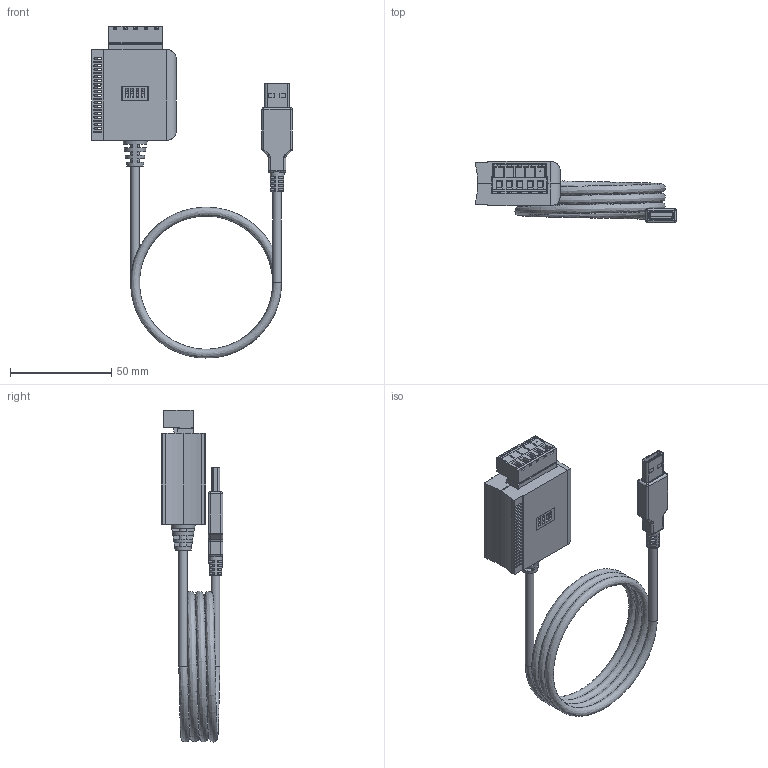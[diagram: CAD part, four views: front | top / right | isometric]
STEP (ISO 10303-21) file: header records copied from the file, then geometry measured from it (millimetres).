
FILE_DESCRIPTION(/* description */ (''),/* implementation_level */ '2;1');
FILE_NAME(/* name */ 'C:/Users/Leo/Desktop/AA CoolGear CADs/New folder/USB-232TTLMOS Model3D LPV1.step',/* time_stamp */ '2021-08-11T14:14:11-04:00',/* author */ (''),/* organization */ (''),/* preprocessor_version */ 'ST-DEVELOPER v18.1',/* originating_system */ 'Autodesk Translation Framework v10.9.0.1377',/* authorisation */ '');
FILE_SCHEMA (('AUTOMOTIVE_DESIGN { 1 0 10303 214 3 1 1 }'));
Products named in the file (8): USB-232TTLMOS; Connector green Phoenix 5 Assamble v2; Connector green Phoenix 5 Male v2; Terminator v1; Cord 36 v1; Component16; Cord USB Cable male end v1 v1; Component20
Assembly tree (7 placements, depth 3):
  USB-232TTLMOS
    Connector green Phoenix 5 Assamble v2
      Connector green Phoenix 5 Male v2
    Terminator v1
    Cord 36 v1
    Component16
    Cord USB Cable male end v1 v1
    Component20
Bounding box: 98.88 x 30.36 x 163.67 mm (x, y, z)
Volume: 32884.7 mm3; surface area: 36897.1 mm2
Topology: 8 solids, 27 shells, 2078 faces, 5636 edges, 3663 vertices
Faces by surface type: plane 1441, bspline 300, cylinder 271, torus 32, cone 22, sphere 12
Full cylindrical faces by diameter (mm): 1.5 x5, 2.8 x5, 3 x5, 3.3 x5, 4 x10, 4.3 x2, 4.4 x1, 14.4 x1
Entity records: 81607 total; most frequent: CARTESIAN_POINT 30155, ORIENTED_EDGE 11248, DIRECTION 9287, EDGE_CURVE 5624, LINE 4153, VECTOR 4153, VERTEX_POINT 3663, AXIS2_PLACEMENT_3D 2567
